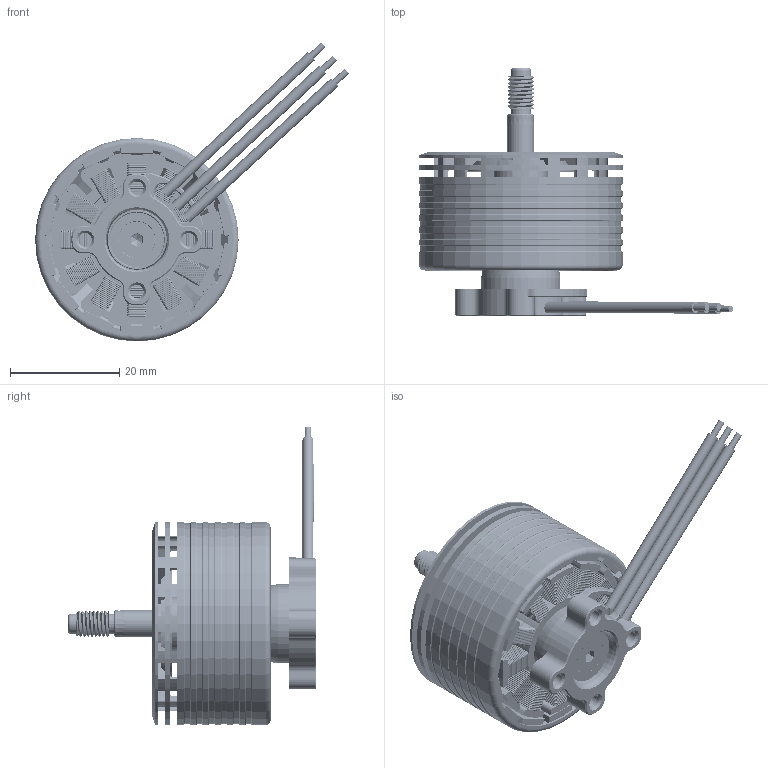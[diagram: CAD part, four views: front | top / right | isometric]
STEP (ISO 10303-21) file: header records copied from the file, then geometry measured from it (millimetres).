
FILE_DESCRIPTION (( 'STEP AP203' ), '1' );
FILE_NAME ('RD 3113 customer CAD.STEP', '2026-09-24T10:03:02', ( '' ), ( '' ), 'SwSTEP 2.0', 'SolidWorks 2022', '' );
FILE_SCHEMA (( 'CONFIG_CONTROL_DESIGN' ));
Length unit declared in the file: millimetre
Products named in the file (1): RD 3113 customer CAD
Bounding box: 57.52 x 45.5 x 54.8 mm (x, y, z)
Volume: 17132.4 mm3; surface area: 24841.3 mm2
Topology: 6 solids, 13 shells, 6359 faces, 22570 edges, 14750 vertices
Faces by surface type: torus 2632, cylinder 2485, plane 875, cone 185, sphere 172, bspline 10
Entity records: 298634 total; most frequent: CARTESIAN_POINT 110873, ORIENTED_EDGE 44916, DIRECTION 35927, EDGE_CURVE 22458, AXIS2_PLACEMENT_3D 15170, VERTEX_POINT 14750, CIRCLE 8820, B_SPLINE_CURVE_WITH_KNOTS 8051
